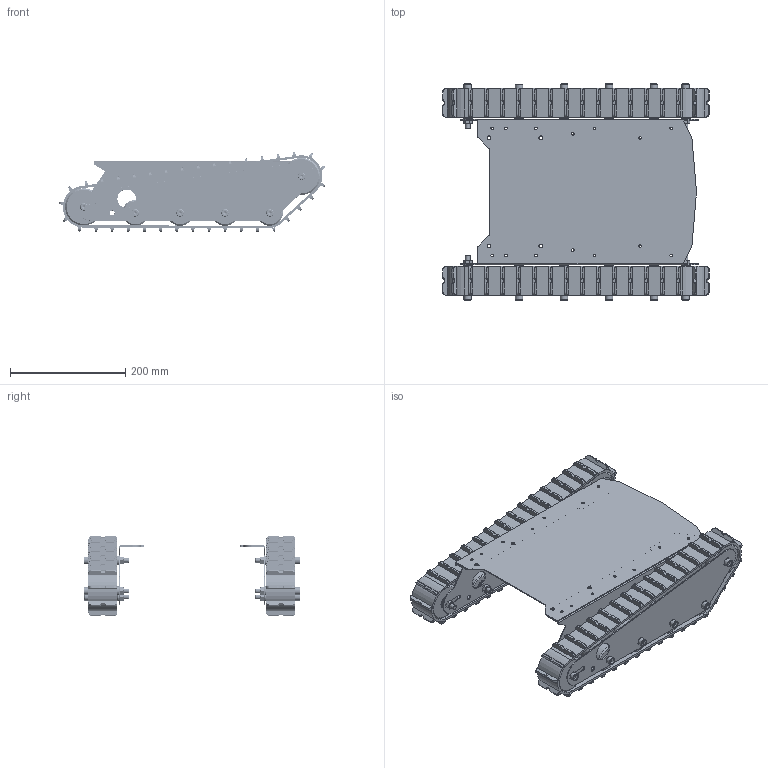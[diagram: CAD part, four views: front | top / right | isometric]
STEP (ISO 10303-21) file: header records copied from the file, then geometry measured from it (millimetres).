
FILE_DESCRIPTION(/* description */ (''),/* implementation_level */ '2;1');
FILE_NAME(/* name */ 'body_frame_asm.stp',/* time_stamp */ '2016-11-24T01:53:32+09:00',/* author */ (''),/* organization */ (''),/* preprocessor_version */ 'ST-DEVELOPER v16',/* originating_system */ 'SIEMENS PLM Software NX 11.0',/* authorisation */ '');
FILE_SCHEMA (('AUTOMOTIVE_DESIGN { 1 0 10303 214 3 1 1 1 }'));
Length unit declared in the file: millimetre
Products named in the file (13): C_SB6900ZZ; cat_belt; ANN8_1_0; roller_shaft; roller_shaft_washer; SCB8_70; frame_side_3; frame_side_2; frame_side_1; frame_main_1; roller_big_MODEL; roller_small_MODEL; body_frame_asm
Assembly tree (117 placements, depth 3):
  body_frame_asm
    frame_main_1
    frame_side_1
    frame_side_2
    frame_side_3  x2
    SCB8_70  x12
    roller_shaft_washer  x60
    roller_shaft  x10
    roller_small_MODEL  x8
      C_SB6900ZZ
    roller_big_MODEL  x4
      C_SB6900ZZ
    ANN8_1_0  x12
    cat_belt  x2
Bounding box: 463.24 x 375.4 x 139.94 mm (x, y, z)
Volume: 1886730.3 mm3; surface area: 1081948.8 mm2
Topology: 211 solids, 211 shells, 2663 faces, 5724 edges, 3615 vertices
Faces by surface type: plane 1275, cylinder 824, torus 456, cone 108
Full cylindrical faces by diameter (mm): 4 x8, 4.5 x28, 6.5 x8, 6.917 x12, 8 x12, 8.2 x24, 8.3 x60, 8.5 x10, 9.5 x10, 10 x24, 13 x12, 13.4 x48, 15.5 x60, 16.8 x2, 18 x12, 19.4 x48, 22 x48, 30.5 x8, 32 x4, 45 x16, 50 x4, 64.5 x8
Entity records: 22813 total; most frequent: DIRECTION 3998, CARTESIAN_POINT 3765, ORIENTED_EDGE 3368, EDGE_CURVE 1684, AXIS2_PLACEMENT_3D 1474, VERTEX_POINT 1185, LINE 1050, VECTOR 1050
